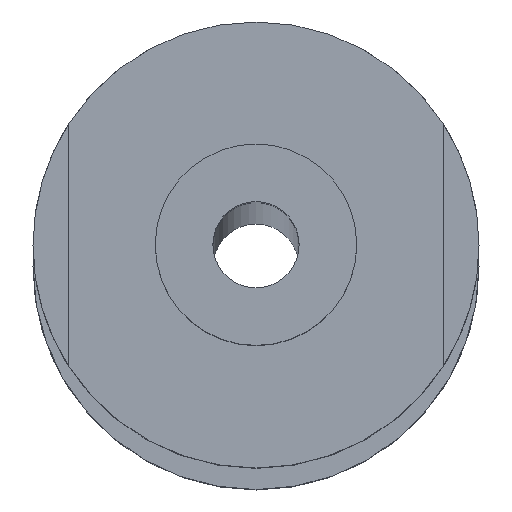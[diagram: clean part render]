
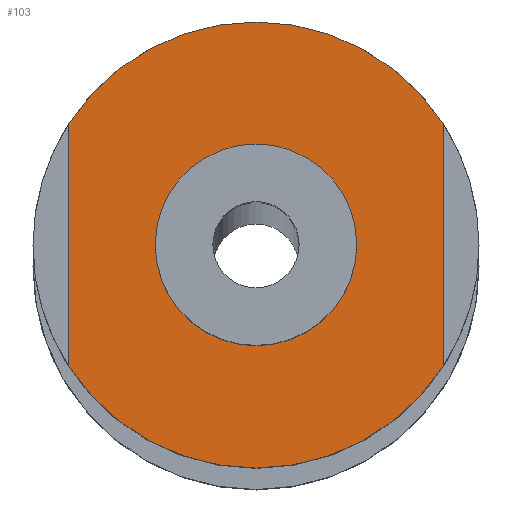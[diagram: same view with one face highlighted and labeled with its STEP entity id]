
A CAD part, top view. The second image highlights one B-rep face of the part: STEP entity #103.
In plain terms, the highlighted planar face has unit normal (0, 0, 1).
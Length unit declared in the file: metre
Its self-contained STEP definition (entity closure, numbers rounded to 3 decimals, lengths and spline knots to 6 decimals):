
#103=ADVANCED_FACE('0:72',(#208,#209),#210,.T.);
#208=FACE_OUTER_BOUND('',#334,.T.);
#209=FACE_BOUND('',#335,.T.);
#210=PLANE('',#336);
#334=EDGE_LOOP('',(#518,#519,#520,#521));
#335=EDGE_LOOP('',(#522,#523));
#336=AXIS2_PLACEMENT_3D('',#524,#525,#526);
#518=ORIENTED_EDGE('',*,*,#734,.F.);
#519=ORIENTED_EDGE('',*,*,#727,.F.);
#520=ORIENTED_EDGE('',*,*,#697,.F.);
#521=ORIENTED_EDGE('',*,*,#722,.T.);
#522=ORIENTED_EDGE('',*,*,#720,.F.);
#523=ORIENTED_EDGE('',*,*,#707,.F.);
#524=CARTESIAN_POINT('',(0.0,0.0,3.235));
#525=DIRECTION('',(0.0,0.0,1.0));
#526=DIRECTION('',(1.0,0.0,0.0));
#697=EDGE_CURVE('0:90',#832,#834,#835,.F.);
#707=EDGE_CURVE('',#849,#852,#853,.T.);
#720=EDGE_CURVE('0:111',#852,#849,#871,.T.);
#722=EDGE_CURVE('0:174',#832,#873,#874,.T.);
#727=EDGE_CURVE('0:183',#834,#881,#882,.F.);
#734=EDGE_CURVE('0:102',#881,#873,#889,.F.);
#832=VERTEX_POINT('',#1023);
#834=VERTEX_POINT('',#1026);
#835=CIRCLE('',#1027,0.0155);
#849=VERTEX_POINT('',#1044);
#852=VERTEX_POINT('',#1048);
#853=CIRCLE('',#1049,0.007);
#871=CIRCLE('',#1070,0.007);
#873=VERTEX_POINT('',#1072);
#874=LINE('',#1073,#1074);
#881=VERTEX_POINT('',#1084);
#882=LINE('',#1085,#1086);
#889=CIRCLE('',#1094,0.0155);
#1023=CARTESIAN_POINT('',(-0.013092,0.008536,3.235));
#1026=CARTESIAN_POINT('',(0.012908,0.008536,3.235));
#1027=AXIS2_PLACEMENT_3D('',#1231,#1232,#1233);
#1044=CARTESIAN_POINT('',(0.006908,0.000095,3.235));
#1048=CARTESIAN_POINT('',(-0.007092,0.000095,3.235));
#1049=AXIS2_PLACEMENT_3D('',#1247,#1248,#1249);
#1070=AXIS2_PLACEMENT_3D('',#1271,#1272,#1273);
#1072=CARTESIAN_POINT('',(-0.013092,-0.008346,3.235));
#1073=CARTESIAN_POINT('',(-0.013092,0.000048,3.235));
#1074=VECTOR('',#1274,1.0);
#1084=CARTESIAN_POINT('',(0.012908,-0.008346,3.235));
#1085=CARTESIAN_POINT('',(0.012908,0.000048,3.235));
#1086=VECTOR('',#1278,1.0);
#1094=AXIS2_PLACEMENT_3D('',#1289,#1290,#1291);
#1231=CARTESIAN_POINT('',(-0.000092,0.000095,3.235));
#1232=DIRECTION('',(0.0,0.0,1.0));
#1233=DIRECTION('',(1.0,0.0,0.0));
#1247=CARTESIAN_POINT('',(-0.000092,0.000095,3.235));
#1248=DIRECTION('',(0.0,0.0,1.0));
#1249=DIRECTION('',(1.0,0.0,-0.0));
#1271=CARTESIAN_POINT('',(-0.000092,0.000095,3.235));
#1272=DIRECTION('',(0.0,0.0,1.0));
#1273=DIRECTION('',(1.0,0.0,-0.0));
#1274=DIRECTION('',(0.,-1.0,0.0));
#1278=DIRECTION('',(0.,1.0,0.0));
#1289=CARTESIAN_POINT('',(-0.000092,0.000095,3.235));
#1290=DIRECTION('',(0.0,0.0,1.0));
#1291=DIRECTION('',(1.0,0.0,0.0));
